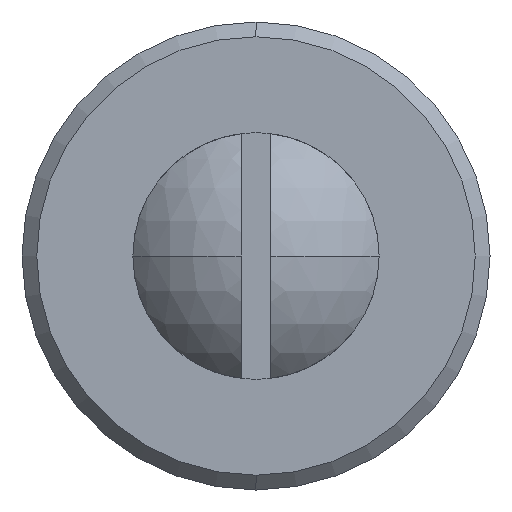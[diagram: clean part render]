
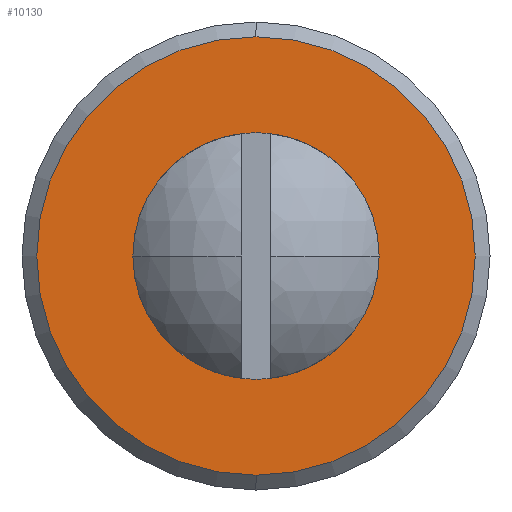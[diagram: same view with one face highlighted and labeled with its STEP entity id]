
A CAD part, left-side view. The second image highlights one B-rep face of the part: STEP entity #10130.
In plain terms, the highlighted planar face has unit normal (-1, 0, 0).
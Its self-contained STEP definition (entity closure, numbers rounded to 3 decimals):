
#833 = DIRECTION ( 'NONE',  ( 0., 0., 1. ) ) ;
#835 = DIRECTION ( 'NONE',  ( -1., 0., 0. ) ) ;
#837 = CARTESIAN_POINT ( 'NONE',  ( 2., 0., 0. ) ) ;
#2078 = DIRECTION ( 'NONE',  ( 0., 0., -1. ) ) ;
#2079 = DIRECTION ( 'NONE',  ( -1., 0., 0. ) ) ;
#2080 = CARTESIAN_POINT ( 'NONE',  ( 2., 0., 0. ) ) ;
#2653 = CARTESIAN_POINT ( 'NONE',  ( 2., 2.5, 0. ) ) ;
#2661 = PLANE ( 'NONE',  #5044 ) ;
#2663 = DIRECTION ( 'NONE',  ( 1., 0., 0. ) ) ;
#2664 = DIRECTION ( 'NONE',  ( 0., 0., -1. ) ) ;
#3110 = EDGE_LOOP ( 'NONE', ( #8995, #8996 ) ) ;
#3114 = EDGE_LOOP ( 'NONE', ( #8997, #8998 ) ) ;
#4057 = DIRECTION ( 'NONE',  ( 0., 0., -1. ) ) ;
#4059 = DIRECTION ( 'NONE',  ( -1., 0., 0. ) ) ;
#4096 = CARTESIAN_POINT ( 'NONE',  ( 2., 0., 0. ) ) ;
#4143 = DIRECTION ( 'NONE',  ( 0., 0., 1. ) ) ;
#4149 = DIRECTION ( 'NONE',  ( -1., 0., 0. ) ) ;
#4163 = CARTESIAN_POINT ( 'NONE',  ( 2., 0., 0. ) ) ;
#4788 = EDGE_CURVE ( 'NONE', #7467, #6806, #8862, .T. ) ;
#5044 = AXIS2_PLACEMENT_3D ( 'NONE', #2653, #2663, #2664 ) ;
#5328 = EDGE_CURVE ( 'NONE', #7240, #6839, #8775, .T. ) ;
#5363 = EDGE_CURVE ( 'NONE', #6839, #7240, #8729, .T. ) ;
#5368 = EDGE_CURVE ( 'NONE', #6806, #7467, #8726, .T. ) ;
#5459 = AXIS2_PLACEMENT_3D ( 'NONE', #4096, #4059, #4057 ) ;
#5462 = AXIS2_PLACEMENT_3D ( 'NONE', #4163, #4149, #4143 ) ;
#5482 = AXIS2_PLACEMENT_3D ( 'NONE', #837, #835, #833 ) ;
#5518 = AXIS2_PLACEMENT_3D ( 'NONE', #2080, #2079, #2078 ) ;
#6186 = CARTESIAN_POINT ( 'NONE',  ( 2., 0., -2.5 ) ) ;
#6194 = CARTESIAN_POINT ( 'NONE',  ( 2., 0., -4.45 ) ) ;
#6255 = CARTESIAN_POINT ( 'NONE',  ( 2., 0., 4.45 ) ) ;
#6464 = CARTESIAN_POINT ( 'NONE',  ( 2., 0., 2.5 ) ) ;
#6806 = VERTEX_POINT ( 'NONE', #6194 ) ;
#6839 = VERTEX_POINT ( 'NONE', #6186 ) ;
#7240 = VERTEX_POINT ( 'NONE', #6464 ) ;
#7467 = VERTEX_POINT ( 'NONE', #6255 ) ;
#8043 = FACE_BOUND ( 'NONE', #3114, .T. ) ;
#8046 = FACE_OUTER_BOUND ( 'NONE', #3110, .T. ) ;
#8726 = CIRCLE ( 'NONE', #5459, 4.45 ) ;
#8729 = CIRCLE ( 'NONE', #5462, 2.5 ) ;
#8775 = CIRCLE ( 'NONE', #5482, 2.5 ) ;
#8862 = CIRCLE ( 'NONE', #5518, 4.45 ) ;
#8995 = ORIENTED_EDGE ( 'NONE', *, *, #5368, .T. ) ;
#8996 = ORIENTED_EDGE ( 'NONE', *, *, #4788, .T. ) ;
#8997 = ORIENTED_EDGE ( 'NONE', *, *, #5328, .F. ) ;
#8998 = ORIENTED_EDGE ( 'NONE', *, *, #5363, .F. ) ;
#10130 = ADVANCED_FACE ( 'NONE', ( #8046, #8043 ), #2661, .F. ) ;
